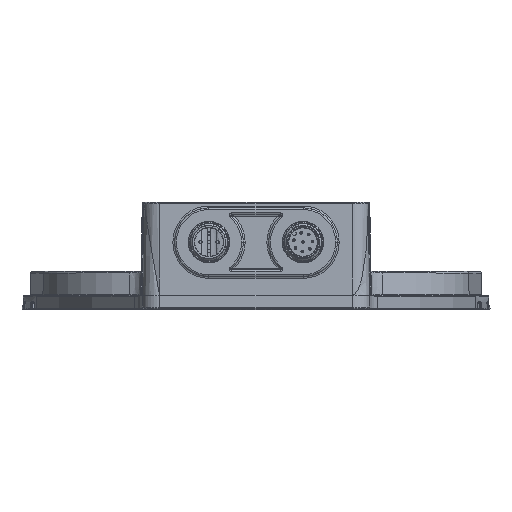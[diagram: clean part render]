
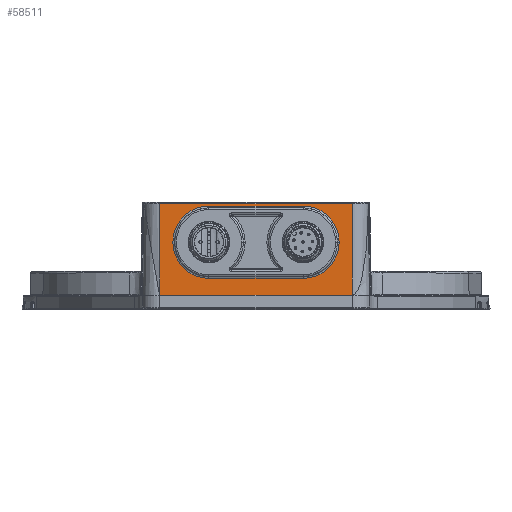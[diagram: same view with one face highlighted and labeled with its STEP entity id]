
A CAD part, top view. The second image highlights one B-rep face of the part: STEP entity #58511.
In plain terms, the highlighted planar face has unit normal (0, 0, 1).
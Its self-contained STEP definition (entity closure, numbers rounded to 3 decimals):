
#122 = EDGE_CURVE ( 'NONE', #2290, #61155, #4677, .T. ) ;
#1068 = CARTESIAN_POINT ( 'NONE',  ( 81.913, 142.641, 241.365 ) ) ;
#1843 = DIRECTION ( 'NONE',  ( 1., 0., 0. ) ) ;
#2010 = ORIENTED_EDGE ( 'NONE', *, *, #29931, .T. ) ;
#2290 = VERTEX_POINT ( 'NONE', #59946 ) ;
#3952 = DIRECTION ( 'NONE',  ( -1., 0., 0. ) ) ;
#4677 = CIRCLE ( 'NONE', #44066, 10.491 ) ;
#5455 = EDGE_CURVE ( 'NONE', #56771, #15228, #24542, .T. ) ;
#7495 = CARTESIAN_POINT ( 'NONE',  ( 25.913, 116.111, 241.365 ) ) ;
#7774 = CARTESIAN_POINT ( 'NONE',  ( 25.913, 116.111, 241.365 ) ) ;
#7929 = EDGE_CURVE ( 'NONE', #49625, #27151, #15572, .T. ) ;
#8254 = LINE ( 'NONE', #18916, #31979 ) ;
#8423 = VERTEX_POINT ( 'NONE', #1068 ) ;
#8960 = CARTESIAN_POINT ( 'NONE',  ( 25.913, 142.641, 241.365 ) ) ;
#10877 = CARTESIAN_POINT ( 'NONE',  ( 40.263, 141.953, 241.365 ) ) ;
#10931 = CARTESIAN_POINT ( 'NONE',  ( 67.563, 131.461, 241.365 ) ) ;
#11154 = ORIENTED_EDGE ( 'NONE', *, *, #27815, .T. ) ;
#12088 = FACE_OUTER_BOUND ( 'NONE', #48961, .T. ) ;
#12616 = PLANE ( 'NONE',  #54588 ) ;
#13666 = FACE_BOUND ( 'NONE', #40100, .T. ) ;
#13973 = VECTOR ( 'NONE', #38013, 1000. ) ;
#14090 = ORIENTED_EDGE ( 'NONE', *, *, #14652, .T. ) ;
#14299 = AXIS2_PLACEMENT_3D ( 'NONE', #62347, #32106, #1843 ) ;
#14652 = EDGE_CURVE ( 'NONE', #49625, #52099, #57775, .T. ) ;
#15228 = VERTEX_POINT ( 'NONE', #10877 ) ;
#15572 = LINE ( 'NONE', #7774, #13973 ) ;
#15881 = ORIENTED_EDGE ( 'NONE', *, *, #5455, .T. ) ;
#17719 = DIRECTION ( 'NONE',  ( 0., 0., 1. ) ) ;
#18916 = CARTESIAN_POINT ( 'NONE',  ( 81.913, 116.111, 241.365 ) ) ;
#22659 = EDGE_CURVE ( 'NONE', #61155, #33927, #23175, .T. ) ;
#22998 = DIRECTION ( 'NONE',  ( -1., 0., 0. ) ) ;
#23175 = CIRCLE ( 'NONE', #27533, 10.491 ) ;
#23485 = DIRECTION ( 'NONE',  ( 0., 0., -1. ) ) ;
#24311 = CARTESIAN_POINT ( 'NONE',  ( 25.913, 142.641, 241.365 ) ) ;
#24440 = CARTESIAN_POINT ( 'NONE',  ( 67.563, 120.97, 241.365 ) ) ;
#24542 = CIRCLE ( 'NONE', #14299, 10.491 ) ;
#27151 = VERTEX_POINT ( 'NONE', #8960 ) ;
#27533 = AXIS2_PLACEMENT_3D ( 'NONE', #53687, #23485, #58759 ) ;
#27815 = EDGE_CURVE ( 'NONE', #33927, #56771, #38463, .T. ) ;
#29931 = EDGE_CURVE ( 'NONE', #52099, #8423, #8254, .T. ) ;
#31979 = VECTOR ( 'NONE', #59269, 1000. ) ;
#32020 = VECTOR ( 'NONE', #3952, 1000. ) ;
#32106 = DIRECTION ( 'NONE',  ( 0., 0., -1. ) ) ;
#32853 = CARTESIAN_POINT ( 'NONE',  ( 40.263, 120.97, 241.365 ) ) ;
#33019 = DIRECTION ( 'NONE',  ( 0., 0., -1. ) ) ;
#33927 = VERTEX_POINT ( 'NONE', #24440 ) ;
#34854 = CARTESIAN_POINT ( 'NONE',  ( 40.263, 120.97, 241.365 ) ) ;
#36461 = CARTESIAN_POINT ( 'NONE',  ( 67.563, 141.953, 241.365 ) ) ;
#37848 = CARTESIAN_POINT ( 'NONE',  ( 81.913, 116.111, 241.365 ) ) ;
#38013 = DIRECTION ( 'NONE',  ( 0., 1., 0. ) ) ;
#38463 = LINE ( 'NONE', #32853, #63769 ) ;
#40100 = EDGE_LOOP ( 'NONE', ( #42519, #48076, #59983, #11154, #15881 ) ) ;
#41506 = DIRECTION ( 'NONE',  ( 1., 0., 0. ) ) ;
#42519 = ORIENTED_EDGE ( 'NONE', *, *, #56150, .T. ) ;
#43000 = CARTESIAN_POINT ( 'NONE',  ( 25.913, 116.111, 241.365 ) ) ;
#44066 = AXIS2_PLACEMENT_3D ( 'NONE', #10931, #33019, #52339 ) ;
#44292 = VECTOR ( 'NONE', #45804, 1000. ) ;
#44661 = VECTOR ( 'NONE', #41506, 1000. ) ;
#45804 = DIRECTION ( 'NONE',  ( 1., 0., 0. ) ) ;
#46286 = LINE ( 'NONE', #36461, #44661 ) ;
#48076 = ORIENTED_EDGE ( 'NONE', *, *, #122, .T. ) ;
#48876 = EDGE_CURVE ( 'NONE', #8423, #27151, #58880, .T. ) ;
#48961 = EDGE_LOOP ( 'NONE', ( #2010, #63761, #64938, #14090 ) ) ;
#49625 = VERTEX_POINT ( 'NONE', #43000 ) ;
#50895 = CARTESIAN_POINT ( 'NONE',  ( 53.913, 116.111, 241.365 ) ) ;
#51586 = CARTESIAN_POINT ( 'NONE',  ( 78.054, 131.461, 241.365 ) ) ;
#52099 = VERTEX_POINT ( 'NONE', #37848 ) ;
#52339 = DIRECTION ( 'NONE',  ( 1., 0., 0. ) ) ;
#53020 = DIRECTION ( 'NONE',  ( 1., 0., 0. ) ) ;
#53687 = CARTESIAN_POINT ( 'NONE',  ( 67.563, 131.461, 241.365 ) ) ;
#54588 = AXIS2_PLACEMENT_3D ( 'NONE', #7495, #17719, #53020 ) ;
#56150 = EDGE_CURVE ( 'NONE', #15228, #2290, #46286, .T. ) ;
#56771 = VERTEX_POINT ( 'NONE', #34854 ) ;
#57775 = LINE ( 'NONE', #50895, #44292 ) ;
#58511 = ADVANCED_FACE ( 'NONE', ( #13666, #12088 ), #12616, .T. ) ;
#58759 = DIRECTION ( 'NONE',  ( 1., 0., 0. ) ) ;
#58880 = LINE ( 'NONE', #24311, #32020 ) ;
#59269 = DIRECTION ( 'NONE',  ( 0., 1., 0. ) ) ;
#59946 = CARTESIAN_POINT ( 'NONE',  ( 67.563, 141.953, 241.365 ) ) ;
#59983 = ORIENTED_EDGE ( 'NONE', *, *, #22659, .T. ) ;
#61155 = VERTEX_POINT ( 'NONE', #51586 ) ;
#62347 = CARTESIAN_POINT ( 'NONE',  ( 40.263, 131.461, 241.365 ) ) ;
#63761 = ORIENTED_EDGE ( 'NONE', *, *, #48876, .T. ) ;
#63769 = VECTOR ( 'NONE', #22998, 1000. ) ;
#64938 = ORIENTED_EDGE ( 'NONE', *, *, #7929, .F. ) ;
